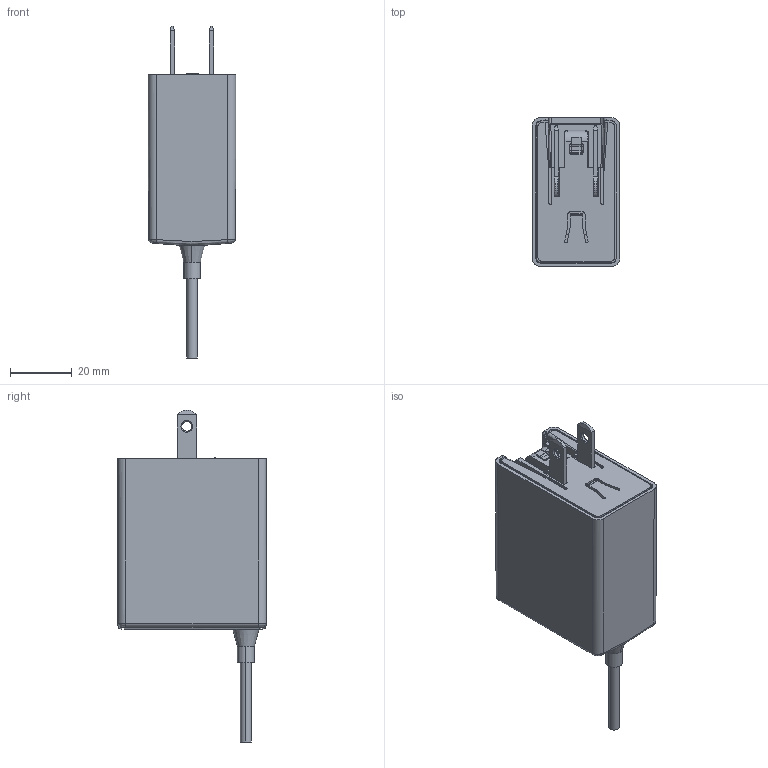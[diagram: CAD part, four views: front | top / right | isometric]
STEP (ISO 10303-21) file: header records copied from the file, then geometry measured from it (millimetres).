
FILE_DESCRIPTION(('Creo Elements/Direct Modeling STEP Export'),'2;1');
FILE_NAME('NGE18U.stp','2025-09-30T10:57:36',(''),(''),'Creo Elements/Direct Modeling STEP processor for AP214 (Solid Model)','Creo Elements/Direct Modeling 19.0G 27-Nov-2017 (C) Parametric Technology GmbH','');
FILE_SCHEMA(('AUTOMOTIVE_DESIGN { 1 0 10303 214 1 1 1 1 }'));
Length unit declared in the file: millimetre
Products named in the file (1): ADMI219C5045N6QM_1_PRT_PRT_PRT_.PRT
Bounding box: 28.34 x 48.24 x 107.56 mm (x, y, z)
Volume: 23663 mm3; surface area: 26626.9 mm2
Topology: 1 solids, 1 shells, 570 faces, 1686 edges, 1121 vertices
Faces by surface type: plane 344, cylinder 143, cone 53, bspline 18, torus 12
Entity records: 25792 total; most frequent: CARTESIAN_POINT 5833, ORIENTED_EDGE 3372, DIRECTION 2836, EDGE_CURVE 1686, VECTOR 1142, LINE 1142, VERTEX_POINT 1121, AXIS2_PLACEMENT_3D 847
